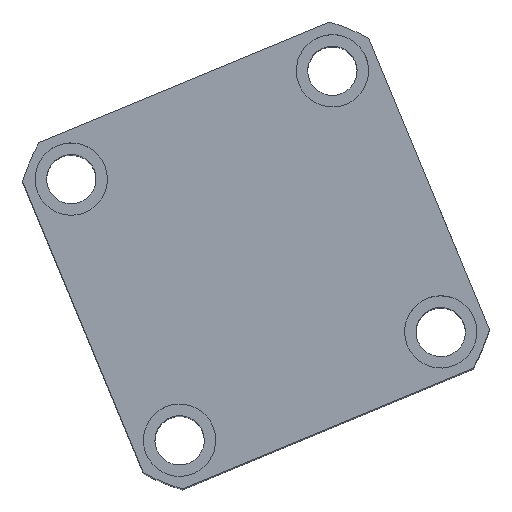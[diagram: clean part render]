
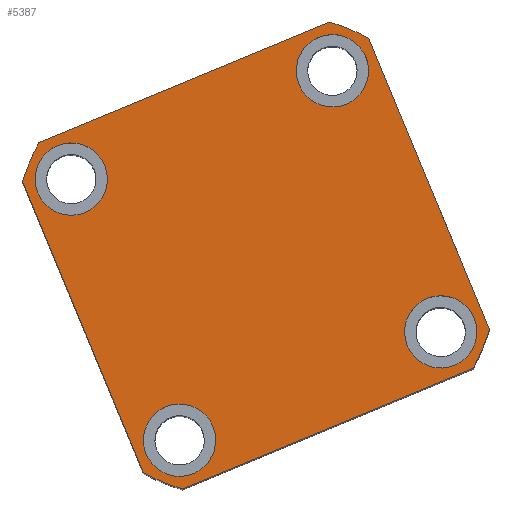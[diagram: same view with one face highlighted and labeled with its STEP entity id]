
A CAD part, top view. The second image highlights one B-rep face of the part: STEP entity #5387.
In plain terms, the highlighted planar face has unit normal (0, 0, 1) as drawn and (0, 0, -1) by its records, which use the part's own axes.
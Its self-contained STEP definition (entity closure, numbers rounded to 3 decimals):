
#425 = EDGE_CURVE ( 'NONE', #604, #511, #5121, .T. ) ;
#439 = CARTESIAN_POINT ( 'NONE',  ( -47.971, -57., 0. ) ) ;
#501 = CIRCLE ( 'NONE', #10412, 11. ) ;
#511 = VERTEX_POINT ( 'NONE', #1772 ) ;
#604 = VERTEX_POINT ( 'NONE', #12422 ) ;
#636 = CARTESIAN_POINT ( 'NONE',  ( 32., 43., 0. ) ) ;
#808 = VERTEX_POINT ( 'NONE', #4135 ) ;
#926 = AXIS2_PLACEMENT_3D ( 'NONE', #2558, #10799, #3735 ) ;
#953 = PLANE ( 'NONE',  #1337 ) ;
#1221 = DIRECTION ( 'NONE',  ( 0., 0., 1. ) ) ;
#1254 = VECTOR ( 'NONE', #5421, 1000. ) ;
#1297 = EDGE_CURVE ( 'NONE', #15011, #8004, #1588, .T. ) ;
#1337 = AXIS2_PLACEMENT_3D ( 'NONE', #11602, #13964, #6931 ) ;
#1498 = VECTOR ( 'NONE', #7020, 1000. ) ;
#1521 = EDGE_CURVE ( 'NONE', #9471, #808, #9729, .T. ) ;
#1588 = CIRCLE ( 'NONE', #13327, 74.5 ) ;
#1594 = CIRCLE ( 'NONE', #11363, 74.5 ) ;
#1760 = FACE_BOUND ( 'NONE', #9260, .T. ) ;
#1771 = VERTEX_POINT ( 'NONE', #6903 ) ;
#1772 = CARTESIAN_POINT ( 'NONE',  ( -54., 43., 0. ) ) ;
#1889 = CARTESIAN_POINT ( 'NONE',  ( -43., -43., 0. ) ) ;
#1954 = EDGE_CURVE ( 'NONE', #3607, #2569, #14488, .T. ) ;
#2120 = DIRECTION ( 'NONE',  ( 0., 0., -1. ) ) ;
#2167 = CARTESIAN_POINT ( 'NONE',  ( 57., 57., 0. ) ) ;
#2359 = CARTESIAN_POINT ( 'NONE',  ( 0., 0., 0. ) ) ;
#2399 = EDGE_CURVE ( 'NONE', #10850, #10935, #501, .T. ) ;
#2520 = CIRCLE ( 'NONE', #11062, 11. ) ;
#2558 = CARTESIAN_POINT ( 'NONE',  ( 0., 0., 0. ) ) ;
#2569 = VERTEX_POINT ( 'NONE', #7726 ) ;
#2864 = ORIENTED_EDGE ( 'NONE', *, *, #425, .F. ) ;
#2937 = EDGE_LOOP ( 'NONE', ( #9133, #13349 ) ) ;
#3030 = CARTESIAN_POINT ( 'NONE',  ( -57., 57., 0. ) ) ;
#3076 = DIRECTION ( 'NONE',  ( -1., 0., 0. ) ) ;
#3267 = AXIS2_PLACEMENT_3D ( 'NONE', #13046, #6005, #14219 ) ;
#3345 = DIRECTION ( 'NONE',  ( 0., 1., 0. ) ) ;
#3427 = CARTESIAN_POINT ( 'NONE',  ( -43., 43., 0. ) ) ;
#3539 = DIRECTION ( 'NONE',  ( 1., 0., 0. ) ) ;
#3607 = VERTEX_POINT ( 'NONE', #13224 ) ;
#3611 = ORIENTED_EDGE ( 'NONE', *, *, #12123, .F. ) ;
#3732 = LINE ( 'NONE', #7497, #6888 ) ;
#3735 = DIRECTION ( 'NONE',  ( 1., 0., 0. ) ) ;
#4135 = CARTESIAN_POINT ( 'NONE',  ( -32., -43., 0. ) ) ;
#4271 = LINE ( 'NONE', #14048, #1498 ) ;
#4378 = EDGE_LOOP ( 'NONE', ( #12337, #8579 ) ) ;
#4540 = FACE_OUTER_BOUND ( 'NONE', #6713, .T. ) ;
#4624 = DIRECTION ( 'NONE',  ( -1., 0., 0. ) ) ;
#4707 = CARTESIAN_POINT ( 'NONE',  ( 43., -43., 0. ) ) ;
#4784 = VERTEX_POINT ( 'NONE', #9457 ) ;
#4851 = CARTESIAN_POINT ( 'NONE',  ( 0., 0., 0. ) ) ;
#4892 = EDGE_LOOP ( 'NONE', ( #11244, #6556 ) ) ;
#4901 = FACE_BOUND ( 'NONE', #4378, .T. ) ;
#4928 = DIRECTION ( 'NONE',  ( 0., 0., -1. ) ) ;
#5121 = CIRCLE ( 'NONE', #13859, 11. ) ;
#5172 = AXIS2_PLACEMENT_3D ( 'NONE', #1889, #10136, #3076 ) ;
#5281 = ORIENTED_EDGE ( 'NONE', *, *, #13703, .F. ) ;
#5339 = DIRECTION ( 'NONE',  ( 0., 0., -1. ) ) ;
#5383 = DIRECTION ( 'NONE',  ( -1., 0., 0. ) ) ;
#5387 = ADVANCED_FACE ( 'NONE', ( #7656, #4901, #14274, #1760, #4540 ), #953, .F. ) ;
#5392 = CARTESIAN_POINT ( 'NONE',  ( -43., -43., 0. ) ) ;
#5421 = DIRECTION ( 'NONE',  ( 0., -1., 0. ) ) ;
#5675 = CARTESIAN_POINT ( 'NONE',  ( 54., -43., 0. ) ) ;
#5714 = VERTEX_POINT ( 'NONE', #9904 ) ;
#5898 = DIRECTION ( 'NONE',  ( -1., 0., 0. ) ) ;
#5925 = CARTESIAN_POINT ( 'NONE',  ( 57., -47.971, 0. ) ) ;
#6005 = DIRECTION ( 'NONE',  ( 0., 0., -1. ) ) ;
#6038 = DIRECTION ( 'NONE',  ( 1., 0., 0. ) ) ;
#6537 = CARTESIAN_POINT ( 'NONE',  ( -57., -47.971, 0. ) ) ;
#6556 = ORIENTED_EDGE ( 'NONE', *, *, #14131, .F. ) ;
#6574 = DIRECTION ( 'NONE',  ( -1., 0., 0. ) ) ;
#6625 = CIRCLE ( 'NONE', #12472, 11. ) ;
#6713 = EDGE_LOOP ( 'NONE', ( #14717, #8011, #3611, #8879, #13105, #15078, #5281, #7304 ) ) ;
#6888 = VECTOR ( 'NONE', #14535, 1000. ) ;
#6903 = CARTESIAN_POINT ( 'NONE',  ( -47.971, 57., 0. ) ) ;
#6931 = DIRECTION ( 'NONE',  ( 1., 0., 0. ) ) ;
#7020 = DIRECTION ( 'NONE',  ( -1., 0., 0. ) ) ;
#7037 = CIRCLE ( 'NONE', #13612, 11. ) ;
#7304 = ORIENTED_EDGE ( 'NONE', *, *, #9629, .F. ) ;
#7472 = VERTEX_POINT ( 'NONE', #5675 ) ;
#7497 = CARTESIAN_POINT ( 'NONE',  ( -57., -57., 0. ) ) ;
#7504 = LINE ( 'NONE', #3030, #1254 ) ;
#7602 = VECTOR ( 'NONE', #3345, 1000. ) ;
#7603 = EDGE_CURVE ( 'NONE', #13749, #3607, #7990, .T. ) ;
#7656 = FACE_BOUND ( 'NONE', #4892, .T. ) ;
#7726 = CARTESIAN_POINT ( 'NONE',  ( 47.971, 57., 0. ) ) ;
#7758 = ORIENTED_EDGE ( 'NONE', *, *, #8843, .F. ) ;
#7954 = EDGE_CURVE ( 'NONE', #8004, #5714, #3732, .T. ) ;
#7990 = LINE ( 'NONE', #2167, #7602 ) ;
#8004 = VERTEX_POINT ( 'NONE', #439 ) ;
#8011 = ORIENTED_EDGE ( 'NONE', *, *, #7603, .F. ) ;
#8261 = CIRCLE ( 'NONE', #14578, 74.5 ) ;
#8276 = CARTESIAN_POINT ( 'NONE',  ( 0., 0., 0. ) ) ;
#8579 = ORIENTED_EDGE ( 'NONE', *, *, #9647, .F. ) ;
#8843 = EDGE_CURVE ( 'NONE', #511, #604, #11094, .T. ) ;
#8879 = ORIENTED_EDGE ( 'NONE', *, *, #7954, .F. ) ;
#9133 = ORIENTED_EDGE ( 'NONE', *, *, #15151, .F. ) ;
#9172 = CARTESIAN_POINT ( 'NONE',  ( 43., 43., 0. ) ) ;
#9260 = EDGE_LOOP ( 'NONE', ( #7758, #2864 ) ) ;
#9451 = DIRECTION ( 'NONE',  ( 1., 0., 0. ) ) ;
#9457 = CARTESIAN_POINT ( 'NONE',  ( 32., -43., 0. ) ) ;
#9471 = VERTEX_POINT ( 'NONE', #11329 ) ;
#9629 = EDGE_CURVE ( 'NONE', #2569, #1771, #4271, .T. ) ;
#9647 = EDGE_CURVE ( 'NONE', #7472, #4784, #7037, .T. ) ;
#9729 = CIRCLE ( 'NONE', #5172, 11. ) ;
#9904 = CARTESIAN_POINT ( 'NONE',  ( 47.971, -57., 0. ) ) ;
#9972 = AXIS2_PLACEMENT_3D ( 'NONE', #3427, #11662, #4624 ) ;
#10086 = EDGE_CURVE ( 'NONE', #11423, #15011, #7504, .T. ) ;
#10136 = DIRECTION ( 'NONE',  ( 0., 0., -1. ) ) ;
#10363 = DIRECTION ( 'NONE',  ( -1., 0., 0. ) ) ;
#10412 = AXIS2_PLACEMENT_3D ( 'NONE', #12377, #5339, #13550 ) ;
#10606 = DIRECTION ( 'NONE',  ( 0., 0., 1. ) ) ;
#10799 = DIRECTION ( 'NONE',  ( 0., 0., 1. ) ) ;
#10850 = VERTEX_POINT ( 'NONE', #11200 ) ;
#10935 = VERTEX_POINT ( 'NONE', #636 ) ;
#11062 = AXIS2_PLACEMENT_3D ( 'NONE', #5392, #13610, #6574 ) ;
#11094 = CIRCLE ( 'NONE', #9972, 11. ) ;
#11200 = CARTESIAN_POINT ( 'NONE',  ( 54., 43., 0. ) ) ;
#11244 = ORIENTED_EDGE ( 'NONE', *, *, #1521, .F. ) ;
#11329 = CARTESIAN_POINT ( 'NONE',  ( -54., -43., 0. ) ) ;
#11363 = AXIS2_PLACEMENT_3D ( 'NONE', #2359, #10606, #3539 ) ;
#11390 = CIRCLE ( 'NONE', #3267, 11. ) ;
#11423 = VERTEX_POINT ( 'NONE', #13173 ) ;
#11602 = CARTESIAN_POINT ( 'NONE',  ( 0., 0., 0. ) ) ;
#11662 = DIRECTION ( 'NONE',  ( 0., 0., -1. ) ) ;
#12123 = EDGE_CURVE ( 'NONE', #5714, #13749, #8261, .T. ) ;
#12282 = EDGE_CURVE ( 'NONE', #4784, #7472, #11390, .T. ) ;
#12337 = ORIENTED_EDGE ( 'NONE', *, *, #12282, .F. ) ;
#12377 = CARTESIAN_POINT ( 'NONE',  ( 43., 43., 0. ) ) ;
#12422 = CARTESIAN_POINT ( 'NONE',  ( -32., 43., 0. ) ) ;
#12472 = AXIS2_PLACEMENT_3D ( 'NONE', #9172, #2120, #10363 ) ;
#12926 = DIRECTION ( 'NONE',  ( 0., 0., -1. ) ) ;
#13046 = CARTESIAN_POINT ( 'NONE',  ( 43., -43., 0. ) ) ;
#13071 = DIRECTION ( 'NONE',  ( 0., 0., 1. ) ) ;
#13105 = ORIENTED_EDGE ( 'NONE', *, *, #1297, .F. ) ;
#13173 = CARTESIAN_POINT ( 'NONE',  ( -57., 47.971, 0. ) ) ;
#13224 = CARTESIAN_POINT ( 'NONE',  ( 57., 47.971, 0. ) ) ;
#13327 = AXIS2_PLACEMENT_3D ( 'NONE', #4851, #13071, #6038 ) ;
#13349 = ORIENTED_EDGE ( 'NONE', *, *, #2399, .F. ) ;
#13550 = DIRECTION ( 'NONE',  ( -1., 0., 0. ) ) ;
#13610 = DIRECTION ( 'NONE',  ( 0., 0., -1. ) ) ;
#13612 = AXIS2_PLACEMENT_3D ( 'NONE', #4707, #12926, #5898 ) ;
#13655 = CARTESIAN_POINT ( 'NONE',  ( -43., 43., 0. ) ) ;
#13703 = EDGE_CURVE ( 'NONE', #1771, #11423, #1594, .T. ) ;
#13749 = VERTEX_POINT ( 'NONE', #5925 ) ;
#13859 = AXIS2_PLACEMENT_3D ( 'NONE', #13655, #4928, #5383 ) ;
#13964 = DIRECTION ( 'NONE',  ( 0., 0., 1. ) ) ;
#14048 = CARTESIAN_POINT ( 'NONE',  ( -57., 57., 0. ) ) ;
#14131 = EDGE_CURVE ( 'NONE', #808, #9471, #2520, .T. ) ;
#14219 = DIRECTION ( 'NONE',  ( -1., 0., 0. ) ) ;
#14274 = FACE_BOUND ( 'NONE', #2937, .T. ) ;
#14488 = CIRCLE ( 'NONE', #926, 74.5 ) ;
#14535 = DIRECTION ( 'NONE',  ( 1., 0., 0. ) ) ;
#14578 = AXIS2_PLACEMENT_3D ( 'NONE', #8276, #1221, #9451 ) ;
#14717 = ORIENTED_EDGE ( 'NONE', *, *, #1954, .F. ) ;
#15011 = VERTEX_POINT ( 'NONE', #6537 ) ;
#15078 = ORIENTED_EDGE ( 'NONE', *, *, #10086, .F. ) ;
#15151 = EDGE_CURVE ( 'NONE', #10935, #10850, #6625, .T. ) ;
